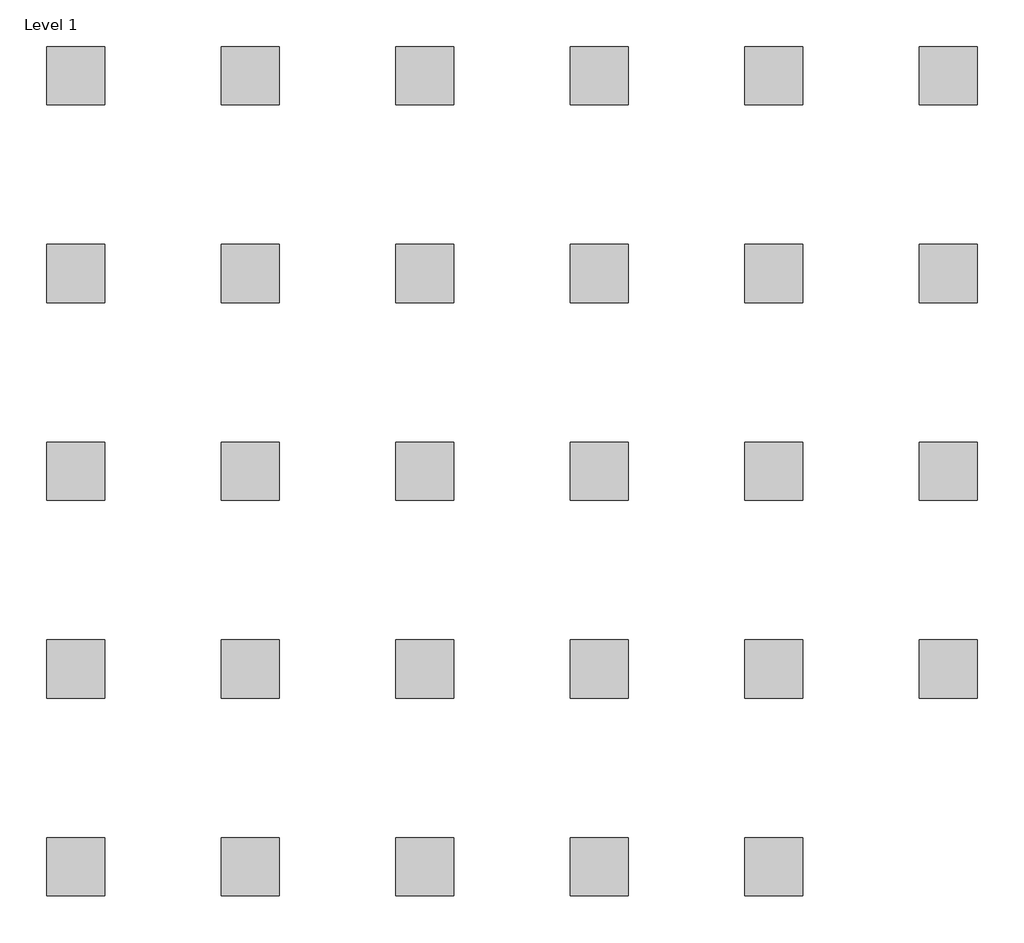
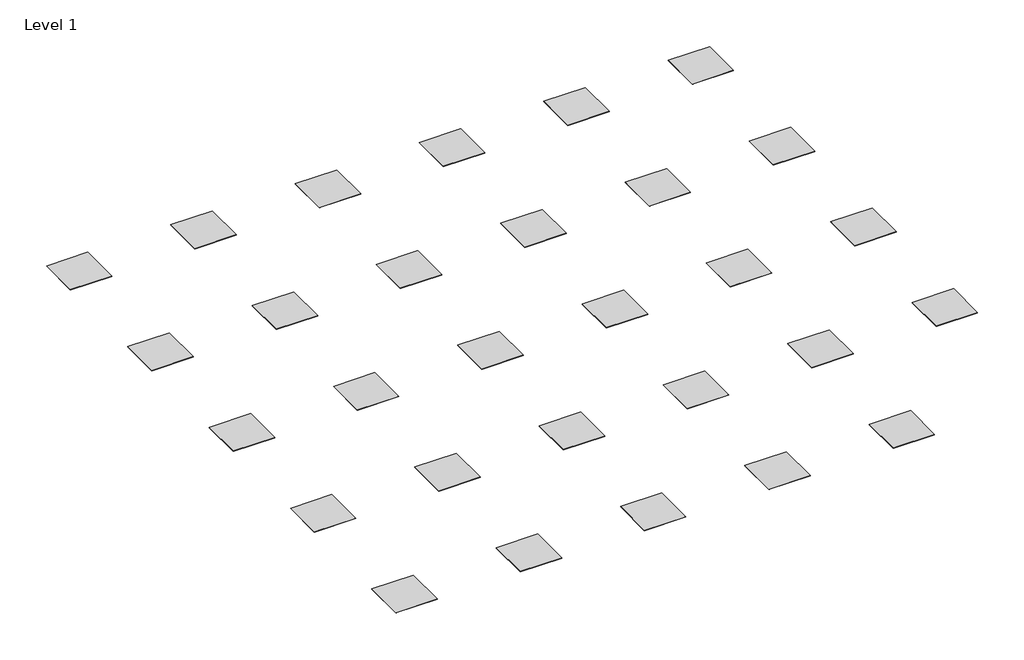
# One storey: 29 proxies.
"""IFC4 building model written with IfcOpenShell, lengths in millimetres."""

from ifc_helpers import new_model, si_unit, origin, place, context, project, spatial, transform, mapped, element, save
from components import generic_models_feed3d8b

model = new_model("IFC4")

# Units and contexts
model_context = context("Model", 3, world=origin())
ifc_project = project(units=[si_unit("LENGTHUNIT", "METRE", prefix="MILLI")], contexts=[model_context])

# Site, building, storey
site = spatial("IfcSite", under=ifc_project)
building = spatial("IfcBuilding", under=site)
storey = spatial("IfcBuildingStorey", under=building, Name="Level 1", Elevation=0.0)

# Proxies
placement = place(None, origin())
generic_models_shape = generic_models_feed3d8b(model_context)
element("IfcBuildingElementProxy", 1, Name="Placeholder : Placeholder", ObjectType="Placeholder : Placeholder", at=placement, inside=storey, context=model_context, shape_type="MappedRepresentation", body=[
    mapped(generic_models_shape, transform((-9572.4474797, 4962.3553628, 0.0), x_axis=(1.0, 0.0, 0.0), y_axis=(0.0, 1.0, 0.0), z_axis=(0.0, 0.0, 1.0))),
])
element("IfcBuildingElementProxy", 2, Name="Placeholder : Placeholder", ObjectType="Placeholder : Placeholder", at=placement, inside=storey, context=model_context, shape_type="MappedRepresentation", body=[
    mapped(generic_models_shape, transform((-9272.4474797, 4962.3553628, 0.0), x_axis=(1.0, 0.0, 0.0), y_axis=(0.0, 1.0, 0.0), z_axis=(0.0, 0.0, 1.0))),
])
element("IfcBuildingElementProxy", 3, Name="Placeholder : Placeholder", ObjectType="Placeholder : Placeholder", at=placement, inside=storey, context=model_context, shape_type="MappedRepresentation", body=[
    mapped(generic_models_shape, transform((-8972.4474797, 4962.3553628, 0.0), x_axis=(1.0, 0.0, 0.0), y_axis=(0.0, 1.0, 0.0), z_axis=(0.0, 0.0, 1.0))),
])
element("IfcBuildingElementProxy", 4, Name="Placeholder : Placeholder", ObjectType="Placeholder : Placeholder", at=placement, inside=storey, context=model_context, shape_type="MappedRepresentation", body=[
    mapped(generic_models_shape, transform((-8672.4474797, 4962.3553628, 0.0), x_axis=(1.0, 0.0, 0.0), y_axis=(0.0, 1.0, 0.0), z_axis=(0.0, 0.0, 1.0))),
])
element("IfcBuildingElementProxy", 5, Name="Placeholder : Placeholder", ObjectType="Placeholder : Placeholder", at=placement, inside=storey, context=model_context, shape_type="MappedRepresentation", body=[
    mapped(generic_models_shape, transform((-8372.4474797, 4962.3553628, 0.0), x_axis=(1.0, 0.0, 0.0), y_axis=(0.0, 1.0, 0.0), z_axis=(0.0, 0.0, 1.0))),
])
element("IfcBuildingElementProxy", 6, Name="Placeholder : Placeholder", ObjectType="Placeholder : Placeholder", at=placement, inside=storey, context=model_context, shape_type="MappedRepresentation", body=[
    mapped(generic_models_shape, transform((-8072.4474797, 4962.3553628, 0.0), x_axis=(1.0, 0.0, 0.0), y_axis=(0.0, 1.0, 0.0), z_axis=(0.0, 0.0, 1.0))),
])
element("IfcBuildingElementProxy", 7, Name="Placeholder : Placeholder", ObjectType="Placeholder : Placeholder", at=placement, inside=storey, context=model_context, shape_type="MappedRepresentation", body=[
    mapped(generic_models_shape, transform((-9572.4474797, 4622.3553628, 0.0), x_axis=(1.0, 0.0, 0.0), y_axis=(0.0, 1.0, 0.0), z_axis=(0.0, 0.0, 1.0))),
])
element("IfcBuildingElementProxy", 8, Name="Placeholder : Placeholder", ObjectType="Placeholder : Placeholder", at=placement, inside=storey, context=model_context, shape_type="MappedRepresentation", body=[
    mapped(generic_models_shape, transform((-9272.4474797, 4622.3553628, 0.0), x_axis=(1.0, 0.0, 0.0), y_axis=(0.0, 1.0, 0.0), z_axis=(0.0, 0.0, 1.0))),
])
element("IfcBuildingElementProxy", 9, Name="Placeholder : Placeholder", ObjectType="Placeholder : Placeholder", at=placement, inside=storey, context=model_context, shape_type="MappedRepresentation", body=[
    mapped(generic_models_shape, transform((-8972.4474797, 4622.3553628, 0.0), x_axis=(1.0, 0.0, 0.0), y_axis=(0.0, 1.0, 0.0), z_axis=(0.0, 0.0, 1.0))),
])
element("IfcBuildingElementProxy", 10, Name="Placeholder : Placeholder", ObjectType="Placeholder : Placeholder", at=placement, inside=storey, context=model_context, shape_type="MappedRepresentation", body=[
    mapped(generic_models_shape, transform((-8672.4474797, 4622.3553628, 0.0), x_axis=(1.0, 0.0, 0.0), y_axis=(0.0, 1.0, 0.0), z_axis=(0.0, 0.0, 1.0))),
])
element("IfcBuildingElementProxy", 11, Name="Placeholder : Placeholder", ObjectType="Placeholder : Placeholder", at=placement, inside=storey, context=model_context, shape_type="MappedRepresentation", body=[
    mapped(generic_models_shape, transform((-8372.4474797, 4622.3553628, 0.0), x_axis=(1.0, 0.0, 0.0), y_axis=(0.0, 1.0, 0.0), z_axis=(0.0, 0.0, 1.0))),
])
element("IfcBuildingElementProxy", 12, Name="Placeholder : Placeholder", ObjectType="Placeholder : Placeholder", at=placement, inside=storey, context=model_context, shape_type="MappedRepresentation", body=[
    mapped(generic_models_shape, transform((-8072.4474797, 4622.3553628, 0.0), x_axis=(1.0, 0.0, 0.0), y_axis=(0.0, 1.0, 0.0), z_axis=(0.0, 0.0, 1.0))),
])
element("IfcBuildingElementProxy", 13, Name="Placeholder : Placeholder", ObjectType="Placeholder : Placeholder", at=placement, inside=storey, context=model_context, shape_type="MappedRepresentation", body=[
    mapped(generic_models_shape, transform((-9572.4474797, 4282.3553628, 0.0), x_axis=(1.0, 0.0, 0.0), y_axis=(0.0, 1.0, 0.0), z_axis=(0.0, 0.0, 1.0))),
])
element("IfcBuildingElementProxy", 14, Name="Placeholder : Placeholder", ObjectType="Placeholder : Placeholder", at=placement, inside=storey, context=model_context, shape_type="MappedRepresentation", body=[
    mapped(generic_models_shape, transform((-9272.4474797, 4282.3553628, 0.0), x_axis=(1.0, 0.0, 0.0), y_axis=(0.0, 1.0, 0.0), z_axis=(0.0, 0.0, 1.0))),
])
element("IfcBuildingElementProxy", 15, Name="Placeholder : Placeholder", ObjectType="Placeholder : Placeholder", at=placement, inside=storey, context=model_context, shape_type="MappedRepresentation", body=[
    mapped(generic_models_shape, transform((-8972.4474797, 4282.3553628, 0.0), x_axis=(1.0, 0.0, 0.0), y_axis=(0.0, 1.0, 0.0), z_axis=(0.0, 0.0, 1.0))),
])
element("IfcBuildingElementProxy", 16, Name="Placeholder : Placeholder", ObjectType="Placeholder : Placeholder", at=placement, inside=storey, context=model_context, shape_type="MappedRepresentation", body=[
    mapped(generic_models_shape, transform((-8672.4474797, 4282.3553628, 0.0), x_axis=(1.0, 0.0, 0.0), y_axis=(0.0, 1.0, 0.0), z_axis=(0.0, 0.0, 1.0))),
])
element("IfcBuildingElementProxy", 17, Name="Placeholder : Placeholder", ObjectType="Placeholder : Placeholder", at=placement, inside=storey, context=model_context, shape_type="MappedRepresentation", body=[
    mapped(generic_models_shape, transform((-8372.4474797, 4282.3553628, 0.0), x_axis=(1.0, 0.0, 0.0), y_axis=(0.0, 1.0, 0.0), z_axis=(0.0, 0.0, 1.0))),
])
element("IfcBuildingElementProxy", 18, Name="Placeholder : Placeholder", ObjectType="Placeholder : Placeholder", at=placement, inside=storey, context=model_context, shape_type="MappedRepresentation", body=[
    mapped(generic_models_shape, transform((-8072.4474797, 4282.3553628, 0.0), x_axis=(1.0, 0.0, 0.0), y_axis=(0.0, 1.0, 0.0), z_axis=(0.0, 0.0, 1.0))),
])
element("IfcBuildingElementProxy", 19, Name="Placeholder : Placeholder", ObjectType="Placeholder : Placeholder", at=placement, inside=storey, context=model_context, shape_type="MappedRepresentation", body=[
    mapped(generic_models_shape, transform((-9572.4474797, 3942.3553628, 0.0), x_axis=(1.0, 0.0, 0.0), y_axis=(0.0, 1.0, 0.0), z_axis=(0.0, 0.0, 1.0))),
])
element("IfcBuildingElementProxy", 20, Name="Placeholder : Placeholder", ObjectType="Placeholder : Placeholder", at=placement, inside=storey, context=model_context, shape_type="MappedRepresentation", body=[
    mapped(generic_models_shape, transform((-9272.4474797, 3942.3553628, 0.0), x_axis=(1.0, 0.0, 0.0), y_axis=(0.0, 1.0, 0.0), z_axis=(0.0, 0.0, 1.0))),
])
element("IfcBuildingElementProxy", 21, Name="Placeholder : Placeholder", ObjectType="Placeholder : Placeholder", at=placement, inside=storey, context=model_context, shape_type="MappedRepresentation", body=[
    mapped(generic_models_shape, transform((-8972.4474797, 3942.3553628, 0.0), x_axis=(1.0, 0.0, 0.0), y_axis=(0.0, 1.0, 0.0), z_axis=(0.0, 0.0, 1.0))),
])
element("IfcBuildingElementProxy", 22, Name="Placeholder : Placeholder", ObjectType="Placeholder : Placeholder", at=placement, inside=storey, context=model_context, shape_type="MappedRepresentation", body=[
    mapped(generic_models_shape, transform((-8672.4474797, 3942.3553628, 0.0), x_axis=(1.0, 0.0, 0.0), y_axis=(0.0, 1.0, 0.0), z_axis=(0.0, 0.0, 1.0))),
])
element("IfcBuildingElementProxy", 23, Name="Placeholder : Placeholder", ObjectType="Placeholder : Placeholder", at=placement, inside=storey, context=model_context, shape_type="MappedRepresentation", body=[
    mapped(generic_models_shape, transform((-8372.4474797, 3942.3553628, 0.0), x_axis=(1.0, 0.0, 0.0), y_axis=(0.0, 1.0, 0.0), z_axis=(0.0, 0.0, 1.0))),
])
element("IfcBuildingElementProxy", 24, Name="Placeholder : Placeholder", ObjectType="Placeholder : Placeholder", at=placement, inside=storey, context=model_context, shape_type="MappedRepresentation", body=[
    mapped(generic_models_shape, transform((-8072.4474797, 3942.3553628, 0.0), x_axis=(1.0, 0.0, 0.0), y_axis=(0.0, 1.0, 0.0), z_axis=(0.0, 0.0, 1.0))),
])
element("IfcBuildingElementProxy", 25, Name="Placeholder : Placeholder", ObjectType="Placeholder : Placeholder", at=placement, inside=storey, context=model_context, shape_type="MappedRepresentation", body=[
    mapped(generic_models_shape, transform((-9572.4474797, 3602.3553628, 0.0), x_axis=(1.0, 0.0, 0.0), y_axis=(0.0, 1.0, 0.0), z_axis=(0.0, 0.0, 1.0))),
])
element("IfcBuildingElementProxy", 26, Name="Placeholder : Placeholder", ObjectType="Placeholder : Placeholder", at=placement, inside=storey, context=model_context, shape_type="MappedRepresentation", body=[
    mapped(generic_models_shape, transform((-9272.4474797, 3602.3553628, 0.0), x_axis=(1.0, 0.0, 0.0), y_axis=(0.0, 1.0, 0.0), z_axis=(0.0, 0.0, 1.0))),
])
element("IfcBuildingElementProxy", 27, Name="Placeholder : Placeholder", ObjectType="Placeholder : Placeholder", at=placement, inside=storey, context=model_context, shape_type="MappedRepresentation", body=[
    mapped(generic_models_shape, transform((-8972.4474797, 3602.3553628, 0.0), x_axis=(1.0, 0.0, 0.0), y_axis=(0.0, 1.0, 0.0), z_axis=(0.0, 0.0, 1.0))),
])
element("IfcBuildingElementProxy", 28, Name="Placeholder : Placeholder", ObjectType="Placeholder : Placeholder", at=placement, inside=storey, context=model_context, shape_type="MappedRepresentation", body=[
    mapped(generic_models_shape, transform((-8672.4474797, 3602.3553628, 0.0), x_axis=(1.0, 0.0, 0.0), y_axis=(0.0, 1.0, 0.0), z_axis=(0.0, 0.0, 1.0))),
])
element("IfcBuildingElementProxy", 29, Name="Placeholder : Placeholder", ObjectType="Placeholder : Placeholder", at=placement, inside=storey, context=model_context, shape_type="MappedRepresentation", body=[
    mapped(generic_models_shape, transform((-8372.4474797, 3602.3553628, 0.0), x_axis=(1.0, 0.0, 0.0), y_axis=(0.0, 1.0, 0.0), z_axis=(0.0, 0.0, 1.0))),
])

save(model, "model.ifc")
